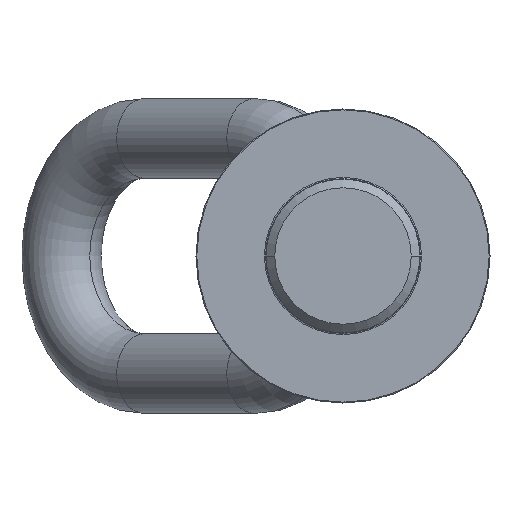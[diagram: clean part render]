
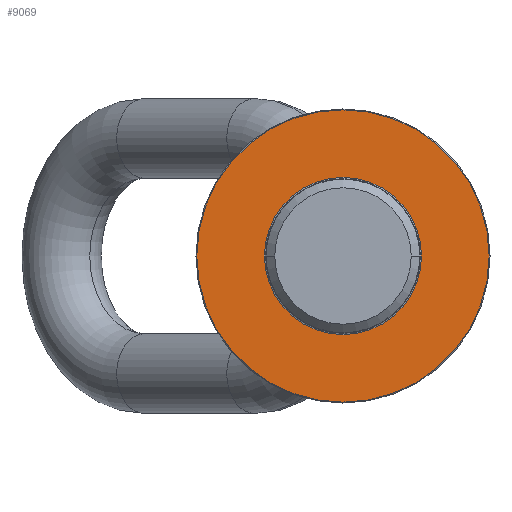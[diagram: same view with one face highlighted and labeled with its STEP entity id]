
A CAD part, front view. The second image highlights one B-rep face of the part: STEP entity #9069.
In plain terms, the highlighted planar face has unit normal (0, -1, 0).
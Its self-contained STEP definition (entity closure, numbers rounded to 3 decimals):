
#2=CARTESIAN_POINT('',(0.,0.,0.));
#3=DIRECTION('',(0.,-1.,0.));
#4=DIRECTION('',(1.,0.,0.));
#5=AXIS2_PLACEMENT_3D('',#2,#3,#4);
#7=CARTESIAN_POINT('',(0.,0.,0.));
#8=DIRECTION('',(0.,-1.,0.));
#9=DIRECTION('',(-1.,0.,0.));
#10=AXIS2_PLACEMENT_3D('',#7,#8,#9);
#12=CARTESIAN_POINT('',(0.,0.,0.));
#13=DIRECTION('',(0.,1.,0.));
#14=DIRECTION('',(1.,0.,0.));
#15=AXIS2_PLACEMENT_3D('',#12,#13,#14);
#30=CARTESIAN_POINT('',(0.,0.,0.));
#31=DIRECTION('',(0.,1.,0.));
#32=DIRECTION('',(-1.,0.,0.));
#33=AXIS2_PLACEMENT_3D('',#30,#31,#32);
#6892=CARTESIAN_POINT('',(45.414,0.,0.));
#6893=CARTESIAN_POINT('',(-45.414,0.,0.));
#6894=VERTEX_POINT('',#6892);
#6895=VERTEX_POINT('',#6893);
#6908=CARTESIAN_POINT('',(-84.5,0.,0.));
#6909=CARTESIAN_POINT('',(84.5,0.,0.));
#6910=VERTEX_POINT('',#6908);
#6911=VERTEX_POINT('',#6909);
#9052=CARTESIAN_POINT('',(0.,0.,0.));
#9053=DIRECTION('',(0.,1.,0.));
#9054=DIRECTION('',(1.,0.,0.));
#9055=AXIS2_PLACEMENT_3D('',#9052,#9053,#9054);
#9056=PLANE('',#9055);
#9058=ORIENTED_EDGE('',*,*,#9057,.T.);
#9060=ORIENTED_EDGE('',*,*,#9059,.T.);
#9061=EDGE_LOOP('',(#9058,#9060));
#9062=FACE_OUTER_BOUND('',#9061,.F.);
#9064=ORIENTED_EDGE('',*,*,#9063,.T.);
#9066=ORIENTED_EDGE('',*,*,#9065,.T.);
#9067=EDGE_LOOP('',(#9064,#9066));
#9068=FACE_BOUND('',#9067,.F.);
#9069=ADVANCED_FACE('',(#9062,#9068),#9056,.F.);
#6=CIRCLE('',#5,45.414);
#11=CIRCLE('',#10,45.414);
#16=CIRCLE('',#15,84.5);
#34=CIRCLE('',#33,84.5);
#9057=EDGE_CURVE('',#6911,#6910,#16,.T.);
#9059=EDGE_CURVE('',#6910,#6911,#34,.T.);
#9063=EDGE_CURVE('',#6894,#6895,#6,.T.);
#9065=EDGE_CURVE('',#6895,#6894,#11,.T.);
